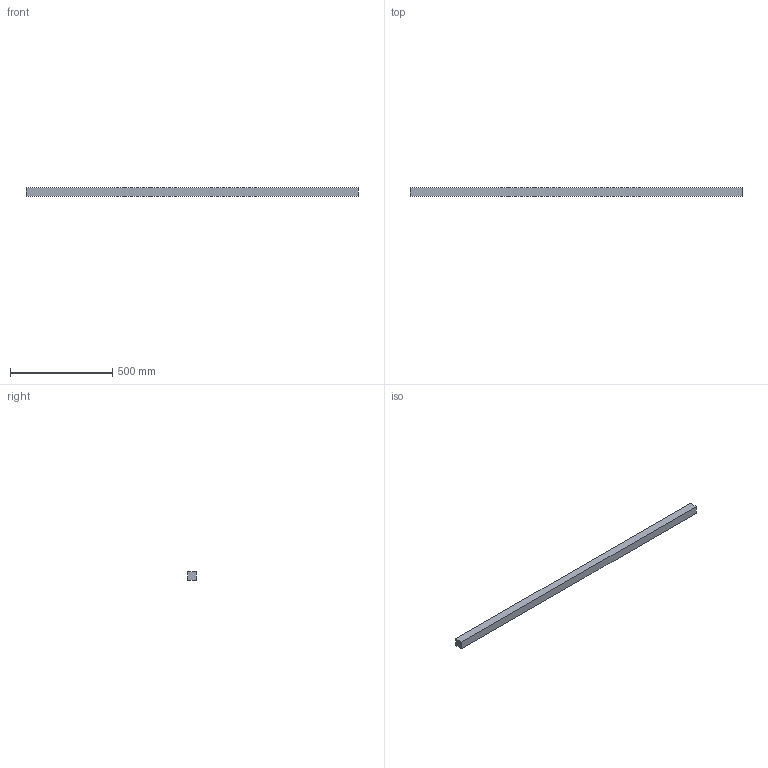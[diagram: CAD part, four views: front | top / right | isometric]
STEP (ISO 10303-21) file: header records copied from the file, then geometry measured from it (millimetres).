
FILE_DESCRIPTION(/* description */ (''),/* implementation_level */ '2;1');
FILE_NAME(/* name */ '3.frame-top#3.5#HFS5-4040-1620',/* time_stamp */ '2014-12-01T20:12:17+01:00',/* author */ (''),/* organization */ (''),/* preprocessor_version */ 'ST-DEVELOPER v14',/* originating_system */ '',/* authorisation */ '');
FILE_SCHEMA (('AUTOMOTIVE_DESIGN'));
Length unit declared in the file: millimetre
Products named in the file (1): Document
Bounding box: 1620 x 40 x 40 mm (x, y, z)
Volume: 2592000 mm3; surface area: 262400 mm2
Topology: 1 solids, 1 shells, 6 faces, 12 edges, 8 vertices
Faces by surface type: plane 6
Entity records: 298 total; most frequent: CARTESIAN_POINT 88, B_SPLINE_CURVE_WITH_KNOTS 36, ORIENTED_EDGE 24, PCURVE 24, DEFINITIONAL_REPRESENTATION 24, SURFACE_CURVE 12, EDGE_CURVE 12, DIRECTION 10
